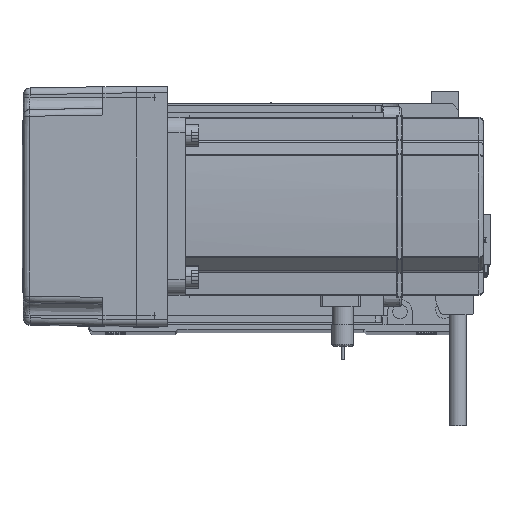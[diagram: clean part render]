
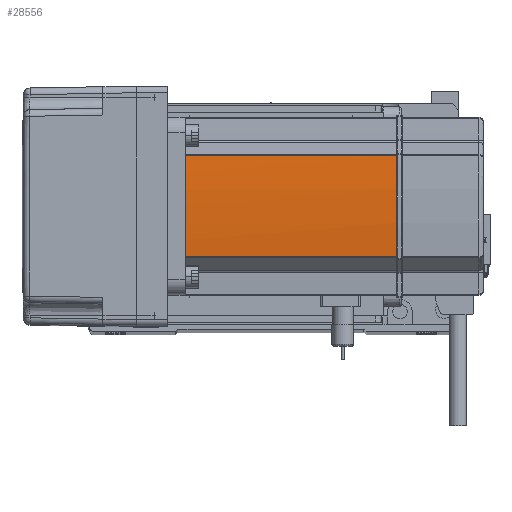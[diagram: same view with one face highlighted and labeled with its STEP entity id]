
A CAD part, top view. The second image highlights one B-rep face of the part: STEP entity #28556.
In plain terms, the highlighted cylindrical face has radius 270 mm (diameter 540 mm), a partial arc.
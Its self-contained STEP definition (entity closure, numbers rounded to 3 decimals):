
#451 = CARTESIAN_POINT ( 'NONE',  ( 40., 0.042, 134. ) ) ;
#1774 = ORIENTED_EDGE ( 'NONE', *, *, #8041, .F. ) ;
#2363 = DIRECTION ( 'NONE',  ( -1., 0., 0. ) ) ;
#3937 = VECTOR ( 'NONE', #7105, 1000. ) ;
#5464 = CARTESIAN_POINT ( 'NONE',  ( 40., -0.127, 134. ) ) ;
#6061 = ORIENTED_EDGE ( 'NONE', *, *, #16718, .T. ) ;
#6313 = VECTOR ( 'NONE', #7874, 1000. ) ;
#7105 = DIRECTION ( 'NONE',  ( 0., 0., -1. ) ) ;
#7874 = DIRECTION ( 'NONE',  ( 0., 0., 1. ) ) ;
#8041 = EDGE_CURVE ( 'NONE', #46693, #16476, #46303, .T. ) ;
#10406 = CARTESIAN_POINT ( 'NONE',  ( -230., 0., 134. ) ) ;
#11759 = CARTESIAN_POINT ( 'NONE',  ( 39.042, 22.724, 39. ) ) ;
#12758 = B_SPLINE_CURVE_WITH_KNOTS ( 'NONE', 3,
 ( #5464, #49509, #451, #31760 ),
 .UNSPECIFIED., .F., .F.,
 ( 4, 4 ),
 ( 0., 1. ),
 .UNSPECIFIED. ) ;
#15484 = AXIS2_PLACEMENT_3D ( 'NONE', #36992, #55307, #2363 ) ;
#16476 = VERTEX_POINT ( 'NONE', #47990 ) ;
#16718 = EDGE_CURVE ( 'NONE', #33679, #28689, #28361, .T. ) ;
#17829 = CARTESIAN_POINT ( 'NONE',  ( -230., 0., 58. ) ) ;
#18382 = EDGE_LOOP ( 'NONE', ( #41370, #1774, #21970, #6061, #49636, #18673 ) ) ;
#18522 = EDGE_CURVE ( 'NONE', #28920, #16476, #44015, .T. ) ;
#18673 = ORIENTED_EDGE ( 'NONE', *, *, #33620, .T. ) ;
#19068 = CIRCLE ( 'NONE', #43249, 270. ) ;
#21623 = CARTESIAN_POINT ( 'NONE',  ( -230., 0., 39. ) ) ;
#21970 = ORIENTED_EDGE ( 'NONE', *, *, #52213, .T. ) ;
#23555 = CARTESIAN_POINT ( 'NONE',  ( 39.042, 22.724, 134. ) ) ;
#28157 = FACE_OUTER_BOUND ( 'NONE', #18382, .T. ) ;
#28361 = CIRCLE ( 'NONE', #15484, 270. ) ;
#28556 = ADVANCED_FACE ( 'NONE', ( #28157 ), #50285, .T. ) ;
#28689 = VERTEX_POINT ( 'NONE', #40416 ) ;
#28920 = VERTEX_POINT ( 'NONE', #48079 ) ;
#30614 = DIRECTION ( 'NONE',  ( -1., 0., 0. ) ) ;
#31124 = DIRECTION ( 'NONE',  ( -1., 0., 0. ) ) ;
#31760 = CARTESIAN_POINT ( 'NONE',  ( 40., 0.127, 134. ) ) ;
#33553 = CARTESIAN_POINT ( 'NONE',  ( 40., -0.127, 134. ) ) ;
#33620 = EDGE_CURVE ( 'NONE', #53641, #28920, #19068, .T. ) ;
#33679 = VERTEX_POINT ( 'NONE', #23555 ) ;
#34972 = DIRECTION ( 'NONE',  ( 0., 0., -1. ) ) ;
#36992 = CARTESIAN_POINT ( 'NONE',  ( -230., 0., 134. ) ) ;
#38987 = CARTESIAN_POINT ( 'NONE',  ( 39.042, 22.724, 58. ) ) ;
#40416 = CARTESIAN_POINT ( 'NONE',  ( 40., 0.127, 134. ) ) ;
#40937 = DIRECTION ( 'NONE',  ( -1., 0., 0. ) ) ;
#41137 = DIRECTION ( 'NONE',  ( 0., 0., -1. ) ) ;
#41370 = ORIENTED_EDGE ( 'NONE', *, *, #18522, .T. ) ;
#43249 = AXIS2_PLACEMENT_3D ( 'NONE', #10406, #41137, #40937 ) ;
#44015 = LINE ( 'NONE', #50958, #3937 ) ;
#45107 = EDGE_CURVE ( 'NONE', #53641, #28689, #12758, .T. ) ;
#46303 = CIRCLE ( 'NONE', #55004, 270. ) ;
#46371 = LINE ( 'NONE', #38987, #6313 ) ;
#46693 = VERTEX_POINT ( 'NONE', #11759 ) ;
#47990 = CARTESIAN_POINT ( 'NONE',  ( 39.042, -22.724, 39. ) ) ;
#48079 = CARTESIAN_POINT ( 'NONE',  ( 39.042, -22.724, 134. ) ) ;
#48330 = DIRECTION ( 'NONE',  ( 0., 0., -1. ) ) ;
#49509 = CARTESIAN_POINT ( 'NONE',  ( 40., -0.042, 134. ) ) ;
#49636 = ORIENTED_EDGE ( 'NONE', *, *, #45107, .F. ) ;
#50285 = CYLINDRICAL_SURFACE ( 'NONE', #56345, 270. ) ;
#50958 = CARTESIAN_POINT ( 'NONE',  ( 39.042, -22.724, 58. ) ) ;
#52213 = EDGE_CURVE ( 'NONE', #46693, #33679, #46371, .T. ) ;
#53641 = VERTEX_POINT ( 'NONE', #33553 ) ;
#55004 = AXIS2_PLACEMENT_3D ( 'NONE', #21623, #34972, #31124 ) ;
#55307 = DIRECTION ( 'NONE',  ( 0., 0., -1. ) ) ;
#56345 = AXIS2_PLACEMENT_3D ( 'NONE', #17829, #48330, #30614 ) ;
